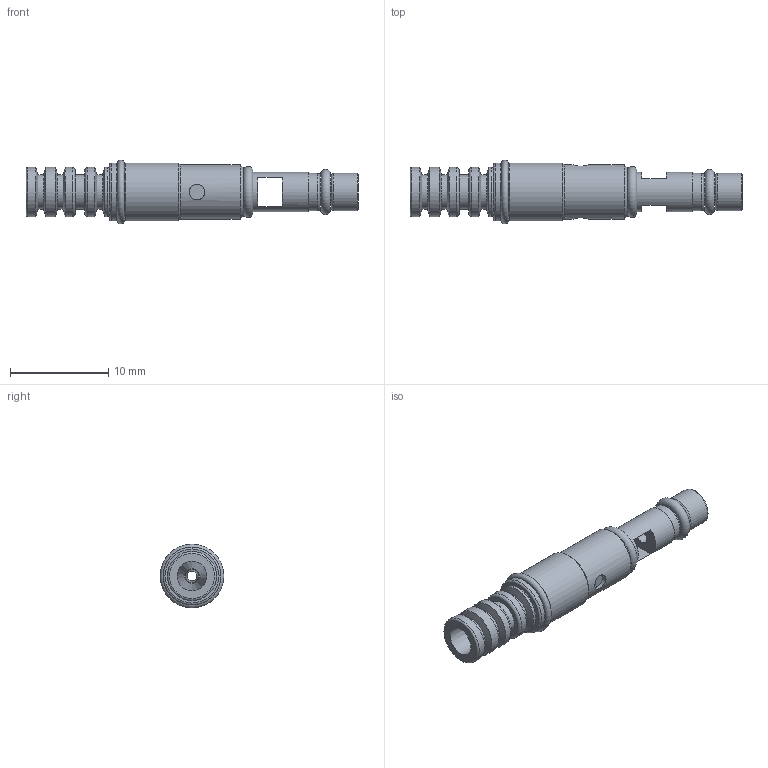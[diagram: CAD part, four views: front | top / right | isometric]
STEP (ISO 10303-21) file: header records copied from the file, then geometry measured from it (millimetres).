
FILE_DESCRIPTION( ( 'STEP AP203' ), '1' );
FILE_NAME( 'D:/撲啗紫賊-02/撲啗紫賊-02/project-06/Vacuum Cartridge-3D/VC102.stp', '2007-05-25T06:04:29', ( ' ' ), ( ' ' ), 'XStep 1.0', ' ', ' ' );
FILE_SCHEMA( ( 'CONFIG_CONTROL_DESIGN) ( )' ) );
Length unit declared in the file: metre
Products named in the file (2): 1; 2
Bounding box: 33.8 x 6.5 x 6.5 mm (x, y, z)
Volume: 487.3 mm3; surface area: 892.3 mm2
Topology: 2 solids, 2 shells, 65 faces, 124 edges, 73 vertices
Faces by surface type: cylinder 22, plane 18, torus 14, cone 11
Full cylindrical faces by diameter (mm): 1.6 x2, 2.6 x1, 2.7 x1, 3.2 x1, 3.5 x4, 3.8 x2, 4 x1, 4.442 x1, 4.771 x1, 5 x5, 5.5 x1, 5.9 x2
Entity records: 1530 total; most frequent: CARTESIAN_POINT 273, DIRECTION 270, ORIENTED_EDGE 148, AXIS2_PLACEMENT_3D 131, EDGE_LOOP 130, FACE_OUTER_BOUND 101, EDGE_CURVE 74, VERTEX_POINT 70
